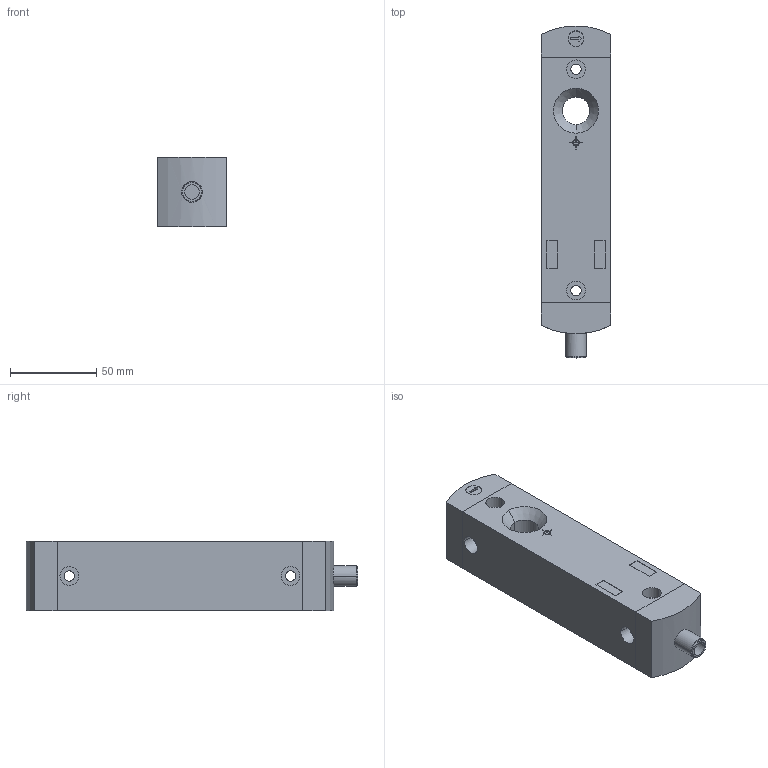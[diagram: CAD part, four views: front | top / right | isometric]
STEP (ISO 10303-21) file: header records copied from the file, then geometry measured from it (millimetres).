
FILE_DESCRIPTION (( 'STEP AP214' ), '1' );
FILE_NAME ('ZF_STEP_NS_xxAZxSxK.step', '2017-07-18T06:16:25', ( 'Pizzato Elettrica' ), ( 'Microsoft' ), 'SwSTEP 2.0', 'SolidWorks 2014', '' );
FILE_SCHEMA (( 'AUTOMOTIVE_DESIGN' ));
Length unit declared in the file: millimetre
Products named in the file (5): ZF_STEP_NS_xxAZxSxK; Pizzato_testa_NS_AZ; Pizzato_testa_NS_Cacciavite modulare; Pizzato_connettore_NS_SMK; Pizzato_Custodia NS
Assembly tree (4 placements, depth 3):
  ZF_STEP_NS_xxAZxSxK
    Pizzato_Custodia NS
    Pizzato_connettore_NS_SMK
    Pizzato_testa_NS_AZ
      Pizzato_testa_NS_Cacciavite modulare
Bounding box: 40 x 192 x 40 mm (x, y, z)
Volume: 264023.5 mm3; surface area: 43185.1 mm2
Topology: 3 solids, 3 shells, 263 faces, 664 edges, 438 vertices
Faces by surface type: plane 166, cylinder 54, bspline 41, cone 2
Entity records: 8322 total; most frequent: CARTESIAN_POINT 2052, ORIENTED_EDGE 1328, DIRECTION 1104, EDGE_CURVE 664, LINE 460, VECTOR 460, VERTEX_POINT 438, AXIS2_PLACEMENT_3D 322
